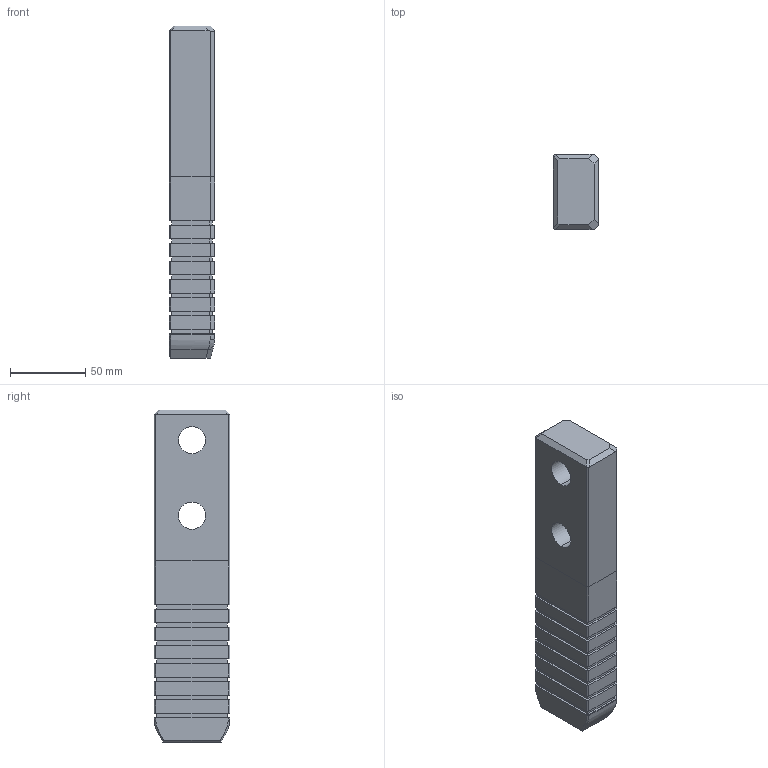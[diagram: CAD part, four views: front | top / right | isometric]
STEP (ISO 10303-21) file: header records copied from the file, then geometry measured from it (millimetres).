
FILE_DESCRIPTION((''),'2;1');
FILE_NAME('','2010-09-22T13:22:33+09:00',('misumi'),(''),'M/STEP i/f 1R2-14','CADmeister v5.1','');
FILE_SCHEMA(('AUTOMOTIVE_DESIGN'));
Length unit declared in the file: millimetre
Products named in the file (1): GWAZ50-220
Bounding box: 30 x 50 x 220 mm (x, y, z)
Volume: 304602 mm3; surface area: 41637.9 mm2
Topology: 1 solids, 1 shells, 175 faces, 455 edges, 296 vertices
Faces by surface type: plane 160, cylinder 7, bspline 6, cone 2
Entity records: 5607 total; most frequent: CARTESIAN_POINT 1269, ORIENTED_EDGE 910, DIRECTION 789, EDGE_CURVE 455, LINE 425, VECTOR 425, VERTEX_POINT 296, EDGE_LOOP 193
